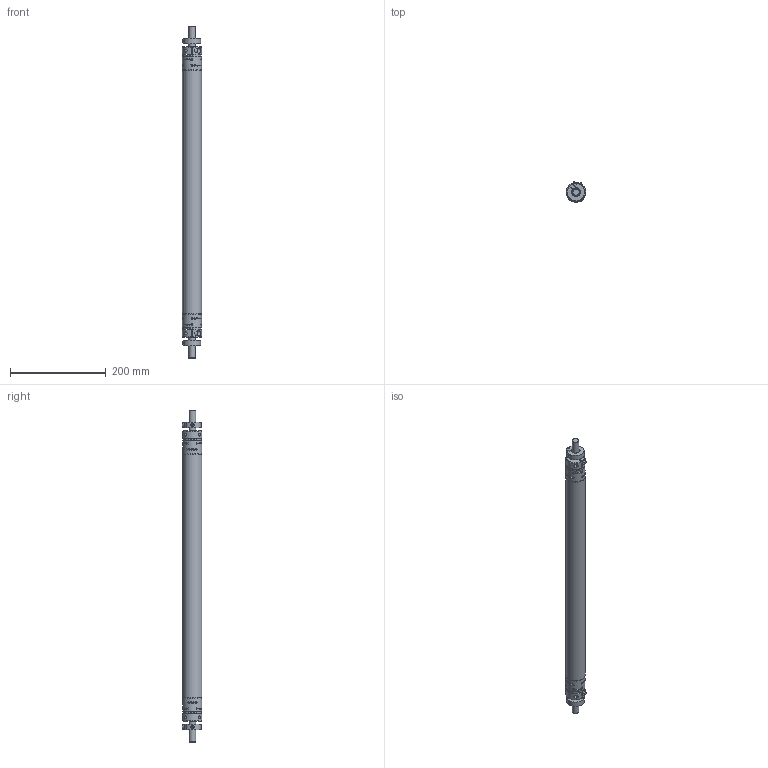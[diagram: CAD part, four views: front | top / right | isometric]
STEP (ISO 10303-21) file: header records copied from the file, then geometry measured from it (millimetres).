
FILE_DESCRIPTION(/* description */ ('Connecting shaft HLR080 - double axis distance = 700mm'),/* implementation_level */ '2;1');
FILE_NAME(/* name */ 'D:\InventorWorkspace2017\CAD\Projekte_EDEM\HLR\Zubehörteile\0242910-0700.stp',/* time_stamp */ '2019-02-13T11:24:26+01:00',/* author */ ('544672'),/* organization */ (''),/* preprocessor_version */ 'ST-DEVELOPER v16.5',/* originating_system */ 'Autodesk Inventor 2017',/* authorisation */ '');
FILE_SCHEMA (('AUTOMOTIVE_DESIGN { 1 0 10303 214 3 1 1 }'));
Length unit declared in the file: millimetre
Products named in the file (8): 0242.910-0700; 0241910-XXXX; ROTEX GS19 ZR3_Rohr_1; ROTEX GS19 ZR3_Klemmnabe D14; 0242007-02; 0241914; 0241012; 130-302345
Assembly tree (11 placements, depth 3):
  0242.910-0700
    0241910-XXXX
      ROTEX GS19 ZR3_Klemmnabe D14  x2
      ROTEX GS19 ZR3_Rohr_1
    0242007-02
      0241914  x2
      0241012  x2
      130-302345  x2
Bounding box: 40 x 41.78 x 695 mm (x, y, z)
Volume: 304126.6 mm3; surface area: 170580.4 mm2
Topology: 9 solids, 9 shells, 424 faces, 1188 edges, 790 vertices
Faces by surface type: cylinder 176, plane 154, cone 90, torus 4
Full cylindrical faces by diameter (mm): 3 x12, 4.917 x2, 6 x6, 6.4 x2, 6.6 x8, 10 x6, 14 x4, 18 x4, 22 x2, 34 x1, 39.4 x2, 40 x3
Entity records: 7305 total; most frequent: CARTESIAN_POINT 1526, DIRECTION 1269, ORIENTED_EDGE 1082, EDGE_CURVE 541, AXIS2_PLACEMENT_3D 540, VERTEX_POINT 383, EDGE_LOOP 294, CIRCLE 291
